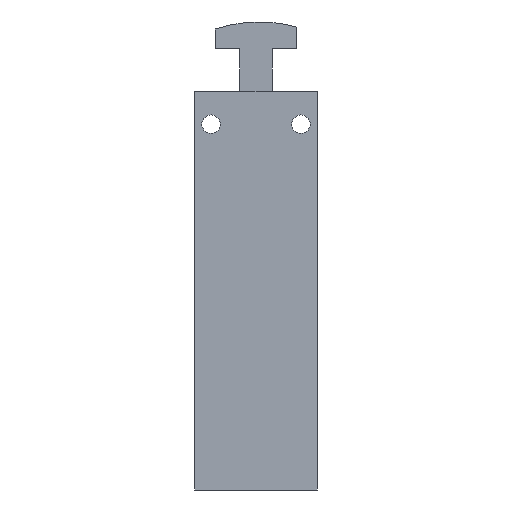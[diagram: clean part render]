
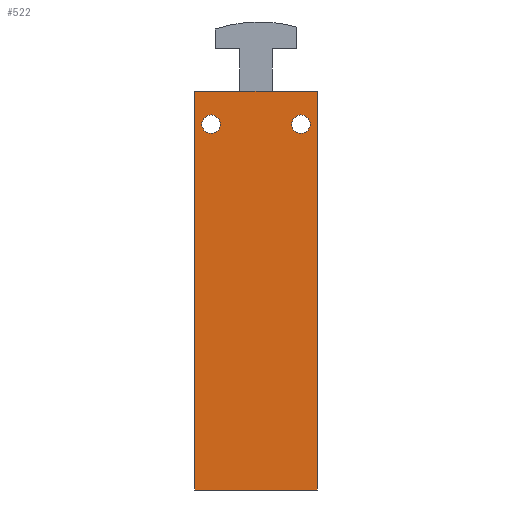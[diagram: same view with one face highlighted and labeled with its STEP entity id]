
A CAD part, front view. The second image highlights one B-rep face of the part: STEP entity #522.
In plain terms, the highlighted planar face has unit normal (0, -1, 0).
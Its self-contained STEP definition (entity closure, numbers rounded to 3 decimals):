
#114 = VERTEX_POINT ( 'NONE', #2345 ) ;
#197 = DIRECTION ( 'NONE',  ( 0., -1., 0. ) ) ;
#371 = EDGE_CURVE ( 'NONE', #114, #2572, #2080, .T. ) ;
#384 = VECTOR ( 'NONE', #1430, 1000. ) ;
#394 = CARTESIAN_POINT ( 'NONE',  ( -15., 0., 48.75 ) ) ;
#407 = ORIENTED_EDGE ( 'NONE', *, *, #1129, .F. ) ;
#442 = FACE_OUTER_BOUND ( 'NONE', #899, .T. ) ;
#446 = FACE_BOUND ( 'NONE', #2533, .T. ) ;
#480 = DIRECTION ( 'NONE',  ( 0., -1., 0. ) ) ;
#522 = ADVANCED_FACE ( 'NONE', ( #446, #624, #442 ), #3746, .F. ) ;
#624 = FACE_BOUND ( 'NONE', #3233, .T. ) ;
#658 = EDGE_CURVE ( 'NONE', #1905, #1932, #856, .T. ) ;
#671 = ORIENTED_EDGE ( 'NONE', *, *, #658, .F. ) ;
#711 = CIRCLE ( 'NONE', #3844, 2.25 ) ;
#726 = EDGE_CURVE ( 'NONE', #1932, #1905, #711, .T. ) ;
#808 = ORIENTED_EDGE ( 'NONE', *, *, #3718, .F. ) ;
#856 = CIRCLE ( 'NONE', #3246, 2.25 ) ;
#899 = EDGE_LOOP ( 'NONE', ( #808, #407, #3262, #2468 ) ) ;
#921 = LINE ( 'NONE', #3776, #1639 ) ;
#956 = CIRCLE ( 'NONE', #2390, 2.25 ) ;
#989 = DIRECTION ( 'NONE',  ( 0., -1., 0. ) ) ;
#1129 = EDGE_CURVE ( 'NONE', #2572, #3294, #921, .T. ) ;
#1154 = DIRECTION ( 'NONE',  ( 0., 0., 1. ) ) ;
#1168 = EDGE_CURVE ( 'NONE', #2449, #114, #3048, .T. ) ;
#1238 = EDGE_CURVE ( 'NONE', #2656, #3665, #3102, .T. ) ;
#1315 = AXIS2_PLACEMENT_3D ( 'NONE', #1692, #3755, #1977 ) ;
#1323 = CARTESIAN_POINT ( 'NONE',  ( -15., 0., -48.75 ) ) ;
#1430 = DIRECTION ( 'NONE',  ( 0., 0., -1. ) ) ;
#1639 = VECTOR ( 'NONE', #2897, 1000. ) ;
#1692 = CARTESIAN_POINT ( 'NONE',  ( 0., 0., 0. ) ) ;
#1850 = CARTESIAN_POINT ( 'NONE',  ( -11., 0., 38.5 ) ) ;
#1905 = VERTEX_POINT ( 'NONE', #3050 ) ;
#1932 = VERTEX_POINT ( 'NONE', #1850 ) ;
#1936 = CARTESIAN_POINT ( 'NONE',  ( 11., 0., 38.5 ) ) ;
#1971 = EDGE_CURVE ( 'NONE', #3665, #2656, #956, .T. ) ;
#1977 = DIRECTION ( 'NONE',  ( 0., 0., 1. ) ) ;
#2004 = CARTESIAN_POINT ( 'NONE',  ( -11., 0., 40.75 ) ) ;
#2027 = DIRECTION ( 'NONE',  ( 0., -1., 0. ) ) ;
#2047 = CARTESIAN_POINT ( 'NONE',  ( -15., 0., -48.75 ) ) ;
#2080 = LINE ( 'NONE', #2047, #2871 ) ;
#2259 = CARTESIAN_POINT ( 'NONE',  ( 11., 0., 40.75 ) ) ;
#2262 = AXIS2_PLACEMENT_3D ( 'NONE', #2259, #480, #2562 ) ;
#2289 = DIRECTION ( 'NONE',  ( 0., 0., 1. ) ) ;
#2345 = CARTESIAN_POINT ( 'NONE',  ( -15., 0., -48.75 ) ) ;
#2390 = AXIS2_PLACEMENT_3D ( 'NONE', #2779, #989, #3077 ) ;
#2449 = VERTEX_POINT ( 'NONE', #2753 ) ;
#2468 = ORIENTED_EDGE ( 'NONE', *, *, #1168, .F. ) ;
#2533 = EDGE_LOOP ( 'NONE', ( #2790, #3356 ) ) ;
#2562 = DIRECTION ( 'NONE',  ( 0., 0., 1. ) ) ;
#2572 = VERTEX_POINT ( 'NONE', #394 ) ;
#2656 = VERTEX_POINT ( 'NONE', #1936 ) ;
#2749 = CARTESIAN_POINT ( 'NONE',  ( 15., 0., 48.75 ) ) ;
#2753 = CARTESIAN_POINT ( 'NONE',  ( 15., 0., -48.75 ) ) ;
#2763 = LINE ( 'NONE', #2917, #384 ) ;
#2779 = CARTESIAN_POINT ( 'NONE',  ( 11., 0., 40.75 ) ) ;
#2790 = ORIENTED_EDGE ( 'NONE', *, *, #1971, .F. ) ;
#2871 = VECTOR ( 'NONE', #1154, 1000. ) ;
#2897 = DIRECTION ( 'NONE',  ( 1., 0., 0. ) ) ;
#2917 = CARTESIAN_POINT ( 'NONE',  ( 15., 0., -48.75 ) ) ;
#2942 = ORIENTED_EDGE ( 'NONE', *, *, #726, .F. ) ;
#3048 = LINE ( 'NONE', #1323, #3366 ) ;
#3050 = CARTESIAN_POINT ( 'NONE',  ( -11., 0., 43. ) ) ;
#3077 = DIRECTION ( 'NONE',  ( 0., 0., 1. ) ) ;
#3102 = CIRCLE ( 'NONE', #2262, 2.25 ) ;
#3233 = EDGE_LOOP ( 'NONE', ( #671, #2942 ) ) ;
#3246 = AXIS2_PLACEMENT_3D ( 'NONE', #3677, #2027, #3762 ) ;
#3262 = ORIENTED_EDGE ( 'NONE', *, *, #371, .F. ) ;
#3294 = VERTEX_POINT ( 'NONE', #2749 ) ;
#3356 = ORIENTED_EDGE ( 'NONE', *, *, #1238, .F. ) ;
#3366 = VECTOR ( 'NONE', #3405, 1000. ) ;
#3405 = DIRECTION ( 'NONE',  ( -1., 0., 0. ) ) ;
#3665 = VERTEX_POINT ( 'NONE', #3796 ) ;
#3677 = CARTESIAN_POINT ( 'NONE',  ( -11., 0., 40.75 ) ) ;
#3718 = EDGE_CURVE ( 'NONE', #3294, #2449, #2763, .T. ) ;
#3746 = PLANE ( 'NONE',  #1315 ) ;
#3755 = DIRECTION ( 'NONE',  ( 0., 1., 0. ) ) ;
#3762 = DIRECTION ( 'NONE',  ( 0., 0., 1. ) ) ;
#3776 = CARTESIAN_POINT ( 'NONE',  ( -15., 0., 48.75 ) ) ;
#3796 = CARTESIAN_POINT ( 'NONE',  ( 11., 0., 43. ) ) ;
#3844 = AXIS2_PLACEMENT_3D ( 'NONE', #2004, #197, #2289 ) ;
